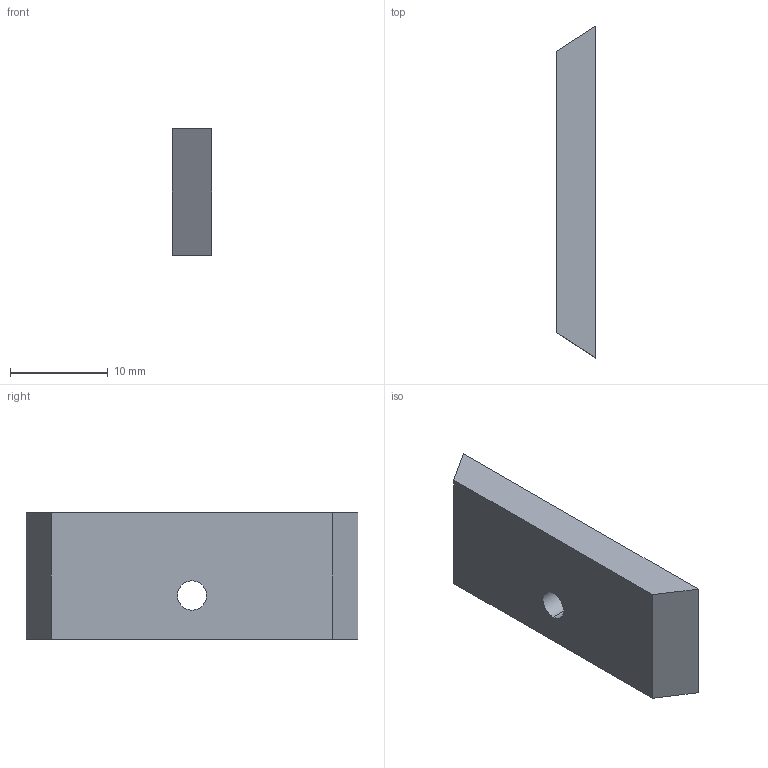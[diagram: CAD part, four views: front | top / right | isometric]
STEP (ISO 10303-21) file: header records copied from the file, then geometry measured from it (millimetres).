
FILE_DESCRIPTION(('STEP AP214'),'1');
FILE_NAME('tmp0.step','2025-04-11T19:33:42',(' '),(' '),'Spatial InterOp 3D',' ',' ');
FILE_SCHEMA(('AUTOMOTIVE_DESIGN { 1 0 10303 214 1 1 1 1 }'));
Length unit declared in the file: millimetre
Products named in the file (1): 1
Bounding box: 4 x 34 x 13 mm (x, y, z)
Volume: 1604.6 mm3; surface area: 1215.2 mm2
Topology: 1 solids, 1 shells, 8 faces, 18 edges, 12 vertices
Faces by surface type: plane 6, cylinder 2
Entity records: 255 total; most frequent: DIRECTION 40, CARTESIAN_POINT 39, ORIENTED_EDGE 36, EDGE_CURVE 18, LINE 14, VECTOR 14, AXIS2_PLACEMENT_3D 13, VERTEX_POINT 12
